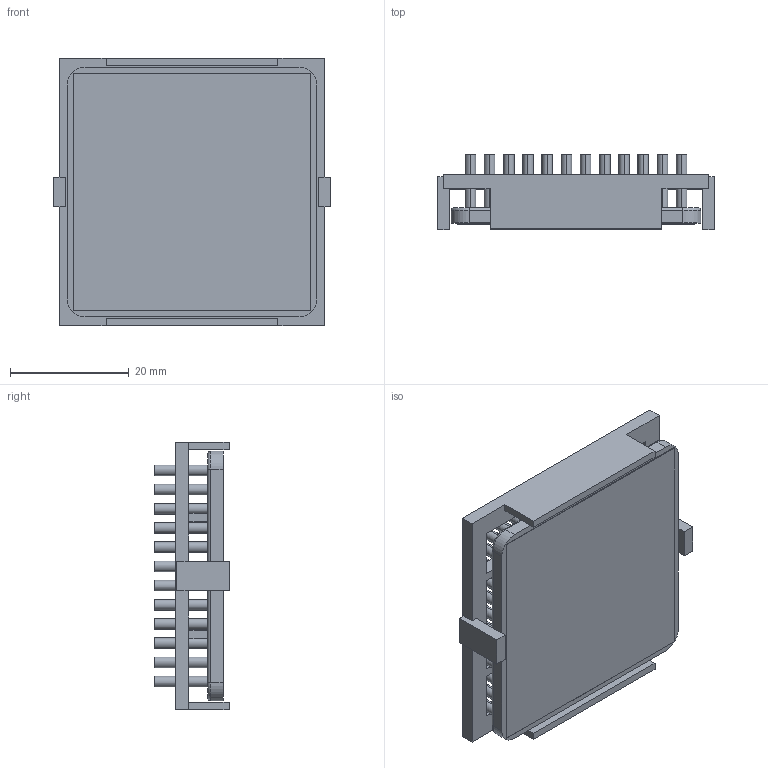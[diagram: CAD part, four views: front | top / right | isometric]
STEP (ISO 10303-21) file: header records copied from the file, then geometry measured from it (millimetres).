
FILE_DESCRIPTION (( 'STEP AP214' ), '1' );
FILE_NAME ('INM42.5002-12PCU-2.6O.STEP', '2023-02-28T00:20:47', ( '' ), ( '' ), 'SwSTEP 2.0', 'SolidWorks 2020', '' );
FILE_SCHEMA (( 'AUTOMOTIVE_DESIGN' ));
Length unit declared in the file: inch
Products named in the file (1): INM42.5002-12PCU-2.6O
Bounding box: 46.7 x 12.7 x 45.1 mm (x, y, z)
Volume: 10025.9 mm3; surface area: 17345 mm2
Topology: 3 solids, 3 shells, 486 faces, 1024 edges, 680 vertices
Faces by surface type: cylinder 280, plane 202, torus 4
Entity records: 19652 total; most frequent: DIRECTION 2562, CARTESIAN_POINT 2191, ORIENTED_EDGE 2048, AXIS2_PLACEMENT_3D 1051, EDGE_CURVE 1024, VERTEX_POINT 680, EDGE_LOOP 624, CIRCLE 564
